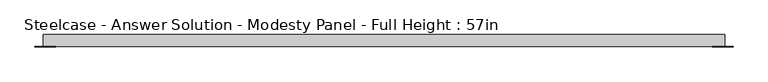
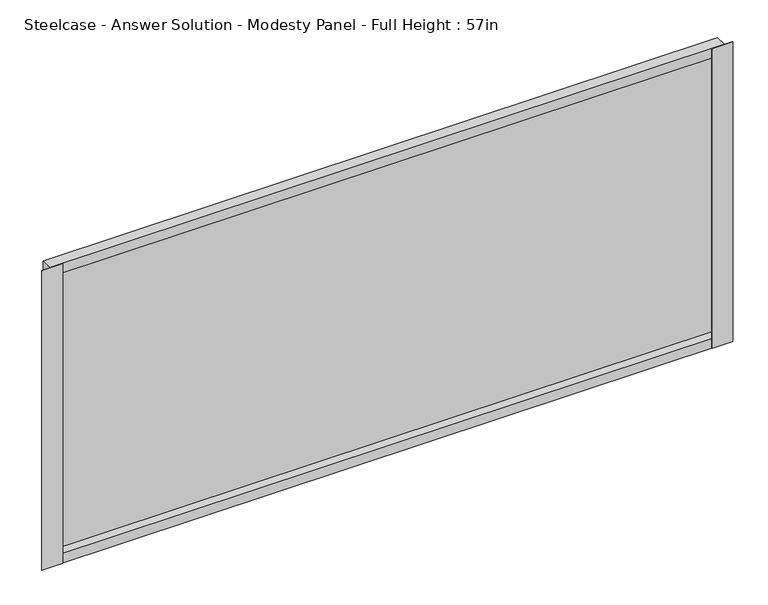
"""IFC4 building model written with IfcOpenShell, lengths in millimetres: furniture geometry, Steelcase - Answer Solution - Modesty Panel - Full Height : 57in."""

from ifc_helpers import new_model, si_unit, frame, origin, place, context, project, spatial, polyline, outline, extrude, faceted_brep, source, transform, mapped, element, save


def steelcase_answer_solution_modesty_panel_full_height_57in_4e5e639b(model_context):
    return source(origin(), model_context, "Body", "SolidModel", [
        extrude(outline(polyline([(1991.3400478, -14.2668826), (1991.3400478, -15.0593624), (1946.9248254, -15.0593624), (1946.9248254, -14.2668826), (1991.3400478, -14.2668826)])), frame((0.0, 0.0, 17.653), z_axis=(0.0, 0.0, 1.0), x_axis=(1.0, 0.0, 0.0)), (0.0, 0.0, 1.0), 678.18),
        extrude(outline(polyline([(556.9673392, -14.2668826), (556.9673392, -15.0593624), (512.5520826, -15.0593624), (512.5520826, -14.2668826), (556.9673392, -14.2668826)])), frame((0.0, 0.0, 17.653), z_axis=(0.0, 0.0, 1.0), x_axis=(1.0, 0.0, 0.0)), (0.0, 0.0, 1.0), 678.18),
        faceted_brep([(530.0780827, 10.9045177, 17.653), (530.0780827, -14.2668826, 17.653), (530.0780827, -14.2668826, 695.833), (530.0780827, 10.9045177, 695.833), (1973.8140827, -14.2668826, 17.653), (1973.8140827, 10.9045177, 17.653), (1973.8140827, 10.9045177, 695.833), (1973.8140827, -14.2668826, 695.833), (1973.0216165, 4.7831174, 39.243), (530.8705628, 4.7831174, 39.243), (530.8705628, -14.2668826, 39.243), (1973.0216165, -14.2668826, 39.243), (530.8705628, -14.2668826, 674.243), (1973.0216165, -14.2668826, 674.243), (530.8705628, 4.7831174, 674.243), (1973.0216165, 4.7831174, 674.243)], [[[0, 1, 2, 3]], [[4, 5, 6, 7]], [[8, 9, 10, 11]], [[0, 3, 6, 5]], [[4, 1, 0, 5]], [[2, 1, 4, 7], [10, 12, 13, 11]], [[3, 2, 7, 6]], [[14, 15, 13, 12]], [[9, 8, 15, 14]], [[12, 10, 9, 14]], [[11, 13, 15, 8]]]),
    ])


if __name__ == "__main__":
    model = new_model("IFC4")
    model_context = context("Model", 3, world=origin())
    ifc_project = project(units=[si_unit("LENGTHUNIT", "METRE", prefix="MILLI")], contexts=[model_context])
    site = spatial("IfcSite", under=ifc_project)
    building = spatial("IfcBuilding", under=site)
    placement = place(None, origin())
    steelcase_answer_solution_modesty_panel_full_height_57in_shape = steelcase_answer_solution_modesty_panel_full_height_57in_4e5e639b(model_context)
    element("IfcFurniture", 1, ObjectType="Steelcase - Answer Solution - Modesty Panel - Full Height : 57in", at=placement, inside=building, context=model_context, shape_type="MappedRepresentation", body=[
        mapped(steelcase_answer_solution_modesty_panel_full_height_57in_shape, transform((0.0, 0.0, 0.0), x_axis=(1.0, 0.0, 0.0), y_axis=(0.0, 1.0, 0.0), z_axis=(0.0, 0.0, 1.0))),
    ])
    save(model, "model.ifc")
